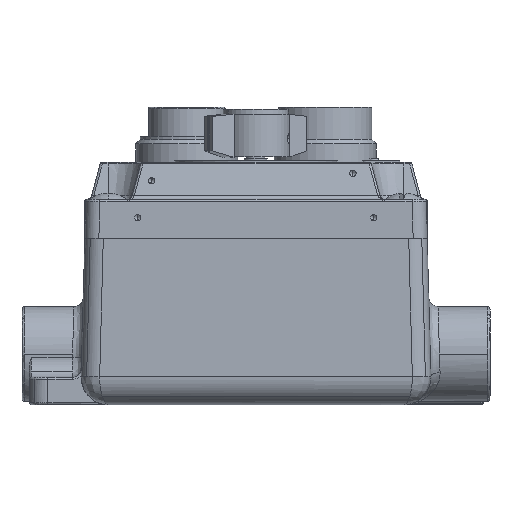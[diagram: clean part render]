
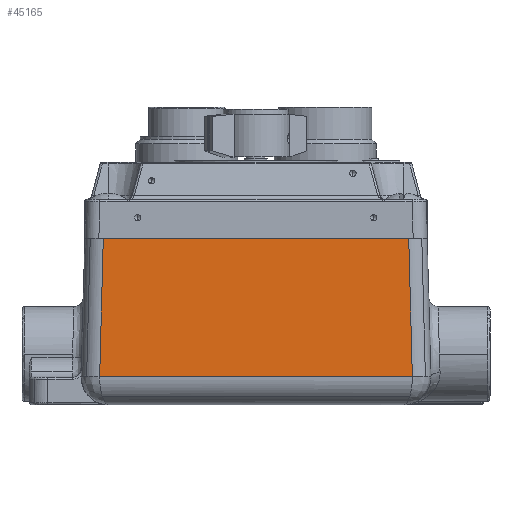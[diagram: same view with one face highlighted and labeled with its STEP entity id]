
A CAD part, front view. The second image highlights one B-rep face of the part: STEP entity #45165.
In plain terms, the highlighted planar face has unit normal (0, -1, 0.026).
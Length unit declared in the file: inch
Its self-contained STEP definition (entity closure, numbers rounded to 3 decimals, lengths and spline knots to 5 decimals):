
#18 = CARTESIAN_POINT ( 'NONE',  ( -2.06422, -3.25164, -0.0625 ) ) ;
#282 = CARTESIAN_POINT ( 'NONE',  ( -2.11306, -3.30048, -1.92768 ) ) ;
#1794 = VERTEX_POINT ( 'NONE', #12132 ) ;
#2768 = VERTEX_POINT ( 'NONE', #52481 ) ;
#9021 = CARTESIAN_POINT ( 'NONE',  ( 2.11306, -3.30048, -1.92768 ) ) ;
#9745 = CARTESIAN_POINT ( 'NONE',  ( 2.09678, -3.2842, -1.30596 ) ) ;
#11196 = ORIENTED_EDGE ( 'NONE', *, *, #90150, .T. ) ;
#12132 = CARTESIAN_POINT ( 'NONE',  ( -2.06422, -3.25164, -0.0625 ) ) ;
#18830 = CARTESIAN_POINT ( 'NONE',  ( -2.11306, -3.30048, -1.92768 ) ) ;
#20653 = CARTESIAN_POINT ( 'NONE',  ( 2.06422, -3.25164, -0.0625 ) ) ;
#24298 = CARTESIAN_POINT ( 'NONE',  ( -2.0805, -3.26792, -0.68423 ) ) ;
#35040 = B_SPLINE_CURVE_WITH_KNOTS ( 'NONE', 3,
 ( #9021, #9745, #43975, #20653 ),
 .UNSPECIFIED., .F., .F.,
 ( 4, 4 ),
 ( 0., 1. ),
 .UNSPECIFIED. ) ;
#43975 = CARTESIAN_POINT ( 'NONE',  ( 2.0805, -3.26792, -0.68423 ) ) ;
#45165 = ADVANCED_FACE ( 'NONE', ( #95986 ), #73397, .T. ) ;
#45759 = AXIS2_PLACEMENT_3D ( 'NONE', #128089, #105492, #61752 ) ;
#52481 = CARTESIAN_POINT ( 'NONE',  ( 2.06422, -3.25164, -0.0625 ) ) ;
#60826 = EDGE_LOOP ( 'NONE', ( #11196, #96692, #113065, #61385 ) ) ;
#61385 = ORIENTED_EDGE ( 'NONE', *, *, #109221, .T. ) ;
#61752 = DIRECTION ( 'NONE',  ( -1., 0., 0. ) ) ;
#72199 = CARTESIAN_POINT ( 'NONE',  ( 0.70435, -3.30048, -1.92768 ) ) ;
#73397 = PLANE ( 'NONE',  #45759 ) ;
#77501 = B_SPLINE_CURVE_WITH_KNOTS ( 'NONE', 3,
 ( #100104, #24298, #134373, #282 ),
 .UNSPECIFIED., .F., .F.,
 ( 4, 4 ),
 ( 0., 1. ),
 .UNSPECIFIED. ) ;
#79763 = B_SPLINE_CURVE_WITH_KNOTS ( 'NONE', 3,
 ( #117385, #129760, #72199, #138599 ),
 .UNSPECIFIED., .F., .F.,
 ( 4, 4 ),
 ( 0., 1. ),
 .UNSPECIFIED. ) ;
#87498 = CARTESIAN_POINT ( 'NONE',  ( 2.06422, -3.25164, -0.0625 ) ) ;
#90150 = EDGE_CURVE ( 'NONE', #91370, #144293, #79763, .T. ) ;
#91370 = VERTEX_POINT ( 'NONE', #18830 ) ;
#95986 = FACE_OUTER_BOUND ( 'NONE', #60826, .T. ) ;
#96692 = ORIENTED_EDGE ( 'NONE', *, *, #137868, .T. ) ;
#98431 = CARTESIAN_POINT ( 'NONE',  ( 0.68807, -3.25164, -0.0625 ) ) ;
#100104 = CARTESIAN_POINT ( 'NONE',  ( -2.06422, -3.25164, -0.0625 ) ) ;
#104317 = B_SPLINE_CURVE_WITH_KNOTS ( 'NONE', 3,
 ( #87498, #98431, #131222, #18 ),
 .UNSPECIFIED., .F., .F.,
 ( 4, 4 ),
 ( 0., 1. ),
 .UNSPECIFIED. ) ;
#105492 = DIRECTION ( 'NONE',  ( 0., -1., 0.026 ) ) ;
#109221 = EDGE_CURVE ( 'NONE', #1794, #91370, #77501, .T. ) ;
#109948 = CARTESIAN_POINT ( 'NONE',  ( 2.11306, -3.30048, -1.92768 ) ) ;
#113065 = ORIENTED_EDGE ( 'NONE', *, *, #118962, .T. ) ;
#117385 = CARTESIAN_POINT ( 'NONE',  ( -2.11306, -3.30048, -1.92768 ) ) ;
#118962 = EDGE_CURVE ( 'NONE', #2768, #1794, #104317, .T. ) ;
#128089 = CARTESIAN_POINT ( 'NONE',  ( 2.3125, -3.25, 0. ) ) ;
#129760 = CARTESIAN_POINT ( 'NONE',  ( -0.70435, -3.30048, -1.92768 ) ) ;
#131222 = CARTESIAN_POINT ( 'NONE',  ( -0.68807, -3.25164, -0.0625 ) ) ;
#134373 = CARTESIAN_POINT ( 'NONE',  ( -2.09678, -3.2842, -1.30596 ) ) ;
#137868 = EDGE_CURVE ( 'NONE', #144293, #2768, #35040, .T. ) ;
#138599 = CARTESIAN_POINT ( 'NONE',  ( 2.11306, -3.30048, -1.92768 ) ) ;
#144293 = VERTEX_POINT ( 'NONE', #109948 ) ;
